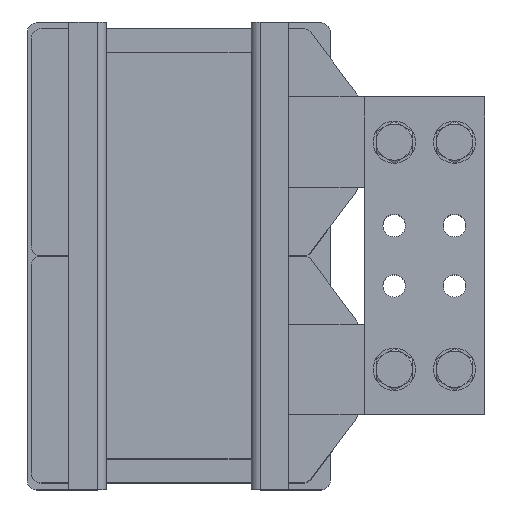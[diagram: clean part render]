
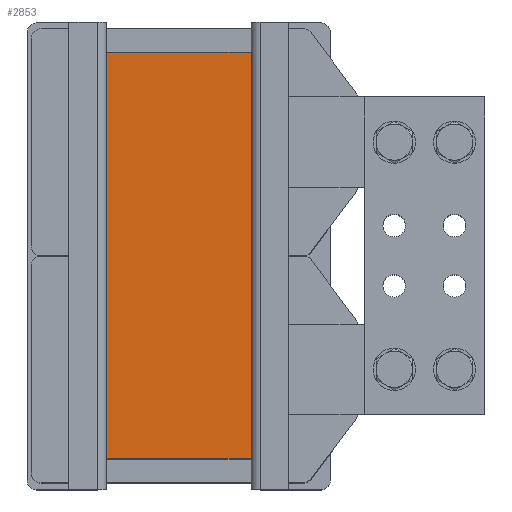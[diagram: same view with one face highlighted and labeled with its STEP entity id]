
A CAD part, top view. The second image highlights one B-rep face of the part: STEP entity #2853.
In plain terms, the highlighted planar face has unit normal (0, 0, 1).
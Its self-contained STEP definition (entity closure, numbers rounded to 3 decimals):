
#2853=ADVANCED_FACE('',(#4452),#4454,.T.);
#4452=FACE_BOUND('',#4453,.T.);
#4453=EDGE_LOOP('',(#6517,#6518,#6519,#6520));
#4454=PLANE('',#4455);
#4455=AXIS2_PLACEMENT_3D('',#4456,#4457,#4458);
#4456=CARTESIAN_POINT('',(0.,0.,343.));
#4457=DIRECTION('',(0.,0.,1.));
#4458=DIRECTION('',(-1.,0.,0.));
#6517=ORIENTED_EDGE('',*,*,#7536,.T.);
#6518=ORIENTED_EDGE('',*,*,#7436,.T.);
#6519=ORIENTED_EDGE('',*,*,#7535,.T.);
#6520=ORIENTED_EDGE('',*,*,#7444,.T.);
#7436=EDGE_CURVE('',#8198,#8196,#8199,.T.);
#7444=EDGE_CURVE('',#8214,#8212,#8215,.T.);
#7535=EDGE_CURVE('',#8196,#8214,#8373,.T.);
#7536=EDGE_CURVE('',#8212,#8198,#8374,.T.);
#8196=VERTEX_POINT('',#9702);
#8198=VERTEX_POINT('',#9706);
#8199=LINE('',#9707,#9708);
#8212=VERTEX_POINT('',#9736);
#8214=VERTEX_POINT('',#9740);
#8215=LINE('',#9741,#9742);
#8373=LINE('',#10107,#10108);
#8374=LINE('',#10110,#10111);
#9702=CARTESIAN_POINT('',(48.,135.,343.));
#9706=CARTESIAN_POINT('',(48.,-135.,343.));
#9707=CARTESIAN_POINT('',(48.,-135.,343.));
#9708=VECTOR('',#9709,1.);
#9709=DIRECTION('',(0.,1.,0.));
#9736=CARTESIAN_POINT('',(-48.,-135.,343.));
#9740=CARTESIAN_POINT('',(-48.,135.,343.));
#9741=CARTESIAN_POINT('',(-48.,135.,343.));
#9742=VECTOR('',#9743,1.);
#9743=DIRECTION('',(0.,-1.,0.));
#10107=CARTESIAN_POINT('',(48.,135.,343.));
#10108=VECTOR('',#10109,1.);
#10109=DIRECTION('',(-1.,0.,0.));
#10110=CARTESIAN_POINT('',(-48.,-135.,343.));
#10111=VECTOR('',#10112,1.);
#10112=DIRECTION('',(1.,0.,0.));
